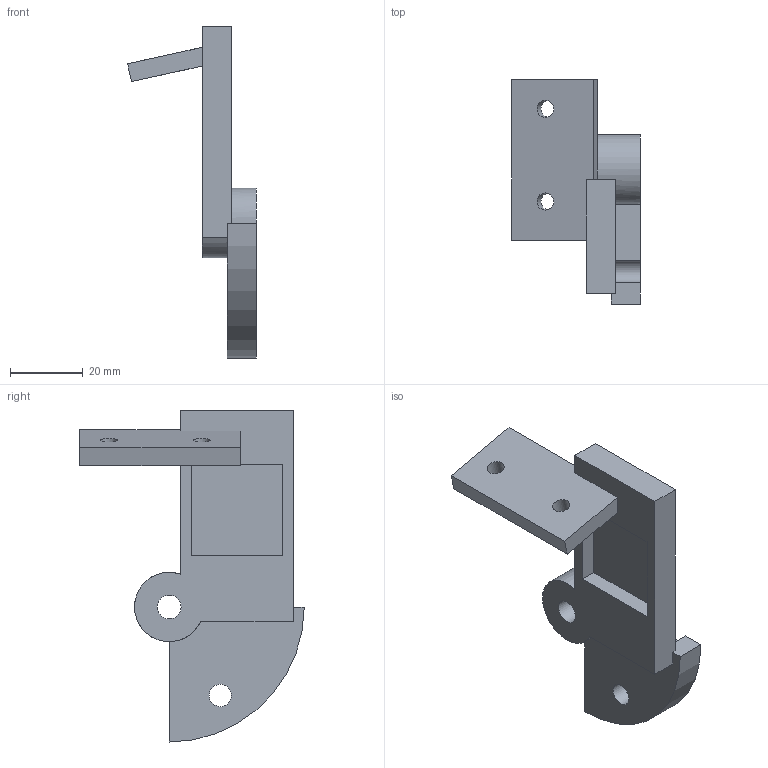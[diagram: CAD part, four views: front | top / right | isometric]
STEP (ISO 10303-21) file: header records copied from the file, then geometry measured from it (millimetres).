
FILE_DESCRIPTION(('Open CASCADE Model'),'2;1');
FILE_NAME('Open CASCADE Shape Model','2026-10-16T00:24:49',('Author'),( 'Open CASCADE'),'Open CASCADE STEP processor 7.9','Open CASCADE 7.9' ,'Unknown');
FILE_SCHEMA(('AUTOMOTIVE_DESIGN { 1 0 10303 214 1 1 1 1 }'));
Length unit declared in the file: millimetre
Products named in the file (1): Open CASCADE STEP translator 7.9 1
Bounding box: 35.34 x 61.51 x 91 mm (x, y, z)
Volume: 26861.7 mm3; surface area: 12040.3 mm2
Topology: 1 solids, 1 shells, 30 faces, 80 edges, 53 vertices
Faces by surface type: plane 23, cylinder 7
Full cylindrical faces by diameter (mm): 4.7 x2, 6.1 x2, 6.5 x1
Entity records: 2005 total; most frequent: CARTESIAN_POINT 444, DIRECTION 269, LINE 170, VECTOR 170, ORIENTED_EDGE 160, PCURVE 160, DEFINITIONAL_REPRESENTATION 160, EDGE_CURVE 80
